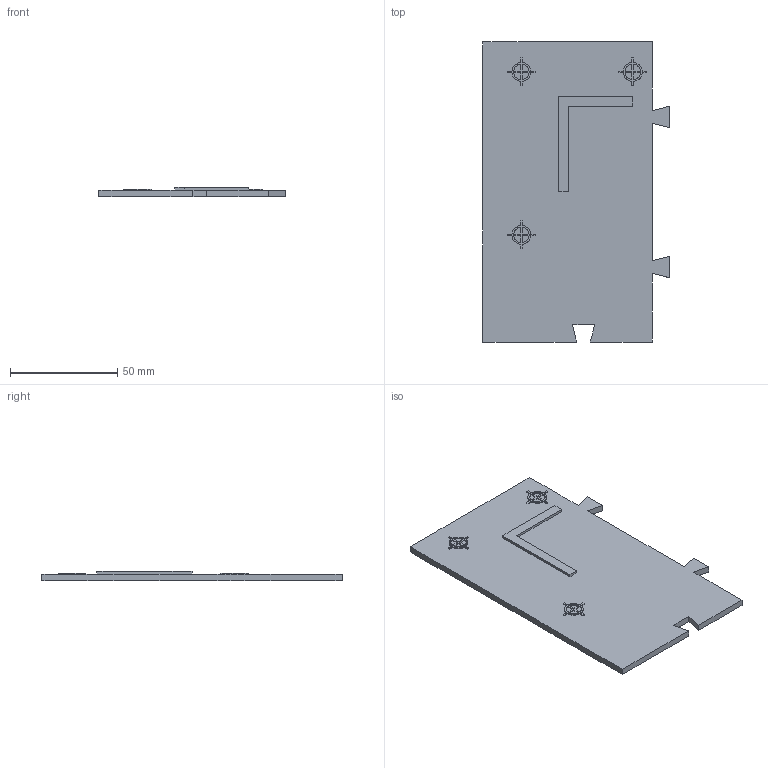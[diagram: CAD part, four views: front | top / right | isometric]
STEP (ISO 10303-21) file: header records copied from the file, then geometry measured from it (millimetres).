
FILE_DESCRIPTION(('q2_plate280_tile_LR'),'2;1');
FILE_NAME('q2_plate280_tile_LR.step','2026-11-05T00:00:00',('rayaanatif'),(''),'qs-cad','qs-cad','');
FILE_SCHEMA(('AUTOMOTIVE_DESIGN { 1 0 10303 214 1 1 1 1 }'));
Length unit declared in the file: millimetre
Products named in the file (1): q2_plate280_tile_LR
Bounding box: 87 x 140 x 4.2 mm (x, y, z)
Volume: 33635.6 mm3; surface area: 24171.1 mm2
Topology: 1 solids, 1 shells, 496 faces, 1787 edges, 1313 vertices
Faces by surface type: plane 496
Entity records: 17374 total; most frequent: ORIENTED_EDGE 3574, DIRECTION 2781, CARTESIAN_POINT 1810, VECTOR 1787, LINE 1787, EDGE_CURVE 1787, VERTEX_POINT 1313, EDGE_LOOP 516
